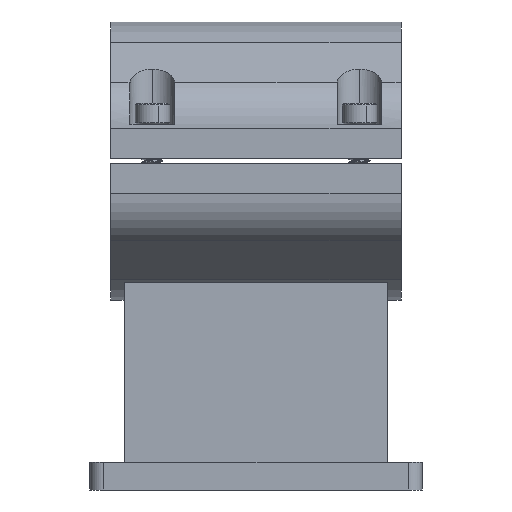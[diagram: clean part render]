
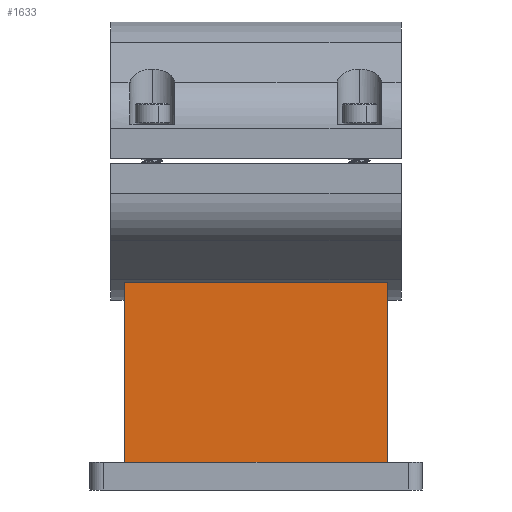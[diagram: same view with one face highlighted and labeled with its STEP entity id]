
A CAD part, left-side view. The second image highlights one B-rep face of the part: STEP entity #1633.
In plain terms, the highlighted planar face has unit normal (-1, 0, 0) as drawn and (0, 0, -1) by its records, which use the part's own axes.
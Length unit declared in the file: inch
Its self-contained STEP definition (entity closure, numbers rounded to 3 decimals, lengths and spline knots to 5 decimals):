
#1633 = ADVANCED_FACE ( 'NONE', ( #10638 ), #17993, .T. ) ;
#2422 = EDGE_LOOP ( 'NONE', ( #4348, #4340, #4297, #4331 ) ) ;
#3148 = EDGE_CURVE ( 'NONE', #4135, #4134, #20391, .T. ) ;
#3149 = EDGE_CURVE ( 'NONE', #4134, #4184, #20372, .T. ) ;
#3174 = EDGE_CURVE ( 'NONE', #4184, #4179, #20396, .T. ) ;
#3183 = EDGE_CURVE ( 'NONE', #4179, #4135, #20476, .T. ) ;
#4134 = VERTEX_POINT ( 'NONE', #23776 ) ;
#4135 = VERTEX_POINT ( 'NONE', #23813 ) ;
#4179 = VERTEX_POINT ( 'NONE', #23875 ) ;
#4184 = VERTEX_POINT ( 'NONE', #23880 ) ;
#4297 = ORIENTED_EDGE ( 'NONE', *, *, #3174, .F. ) ;
#4331 = ORIENTED_EDGE ( 'NONE', *, *, #3149, .F. ) ;
#4340 = ORIENTED_EDGE ( 'NONE', *, *, #3183, .F. ) ;
#4348 = ORIENTED_EDGE ( 'NONE', *, *, #3148, .F. ) ;
#7976 = AXIS2_PLACEMENT_3D ( 'NONE', #18004, #18002, #18003 ) ;
#10638 = FACE_OUTER_BOUND ( 'NONE', #2422, .T. ) ;
#17993 = PLANE ( 'NONE',  #7976 ) ;
#18002 = DIRECTION ( 'NONE',  ( 0., 0., -1. ) ) ;
#18003 = DIRECTION ( 'NONE',  ( -1., 0., 0. ) ) ;
#18004 = CARTESIAN_POINT ( 'NONE',  ( 0., 0., 0. ) ) ;
#20372 = LINE ( 'NONE', #22682, #20385 ) ;
#20385 = VECTOR ( 'NONE', #22695, 39.37008 ) ;
#20391 = LINE ( 'NONE', #22636, #20412 ) ;
#20396 = LINE ( 'NONE', #22775, #20398 ) ;
#20398 = VECTOR ( 'NONE', #22765, 39.37008 ) ;
#20412 = VECTOR ( 'NONE', #22676, 39.37008 ) ;
#20437 = VECTOR ( 'NONE', #22760, 39.37008 ) ;
#20476 = LINE ( 'NONE', #22789, #20437 ) ;
#22636 = CARTESIAN_POINT ( 'NONE',  ( -0.8125, 1.1875, 0. ) ) ;
#22676 = DIRECTION ( 'NONE',  ( 0., -1., 0. ) ) ;
#22682 = CARTESIAN_POINT ( 'NONE',  ( 0.8125, -1.1875, 0. ) ) ;
#22695 = DIRECTION ( 'NONE',  ( 1., 0., 0. ) ) ;
#22760 = DIRECTION ( 'NONE',  ( -1., 0., 0. ) ) ;
#22765 = DIRECTION ( 'NONE',  ( 0., 1., 0. ) ) ;
#22775 = CARTESIAN_POINT ( 'NONE',  ( 0.8125, 1.1875, 0. ) ) ;
#22789 = CARTESIAN_POINT ( 'NONE',  ( 0.8125, 1.1875, 0. ) ) ;
#23776 = CARTESIAN_POINT ( 'NONE',  ( -0.8125, -1.1875, 0. ) ) ;
#23813 = CARTESIAN_POINT ( 'NONE',  ( -0.8125, 1.1875, 0. ) ) ;
#23875 = CARTESIAN_POINT ( 'NONE',  ( 0.8125, 1.1875, 0. ) ) ;
#23880 = CARTESIAN_POINT ( 'NONE',  ( 0.8125, -1.1875, 0. ) ) ;
